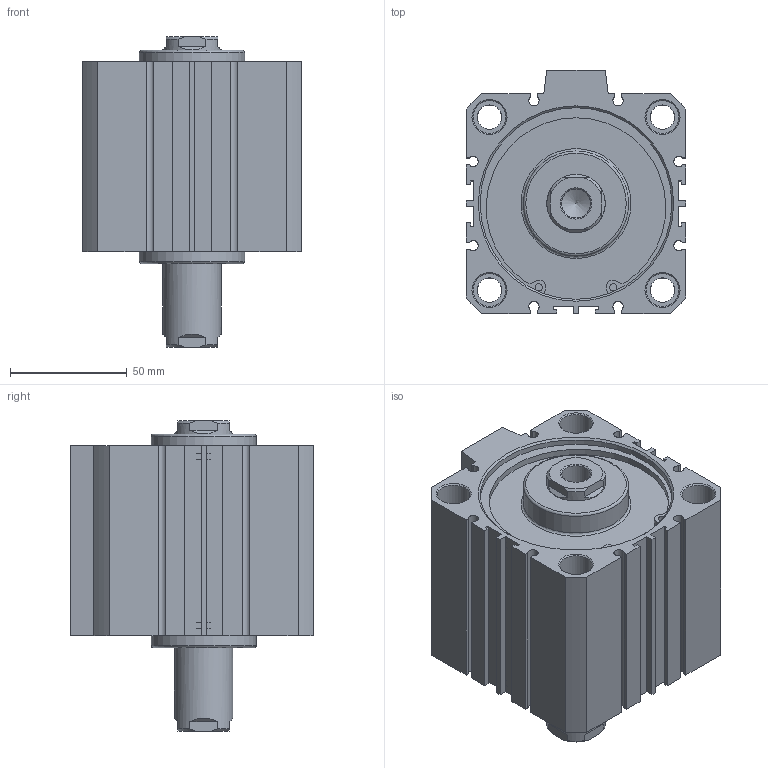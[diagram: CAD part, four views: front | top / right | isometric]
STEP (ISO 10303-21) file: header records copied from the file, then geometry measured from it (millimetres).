
FILE_DESCRIPTION((''),'2;1');
FILE_NAME('I:\3D電子目錄\氣缸\JDD\JDD-S\JDD80-S\JDD80x30-S.stp','2007-02-09T09:00:31',('662F206'),(''),'Autodesk Inventor 10','Autodesk Inventor 10','');
FILE_SCHEMA(('AUTOMOTIVE_DESIGN { 1 0 10303 214 1 1 1 1 }'));
Length unit declared in the file: millimetre
Products named in the file (3): JDD80-S; R 形環 82
Assembly tree (3 placements, depth 2):
  JDD80-S
    JDD80-S
    R 形環 82  x2
Bounding box: 94 x 104 x 132.7 mm (x, y, z)
Volume: 663608.3 mm3; surface area: 91454.2 mm2
Topology: 3 solids, 3 shells, 200 faces, 502 edges, 330 vertices
Faces by surface type: plane 116, cylinder 52, cone 24, bspline 6, torus 2
Full cylindrical faces by diameter (mm): 3.1 x4, 3.5 x2, 10.4 x4, 14 x8, 25 x2, 45 x2, 82 x4, 85.5 x2
Entity records: 5511 total; most frequent: CARTESIAN_POINT 1094, DIRECTION 908, ORIENTED_EDGE 824, EDGE_CURVE 412, AXIS2_PLACEMENT_3D 324, VERTEX_POINT 300, EDGE_LOOP 272, VECTOR 260
